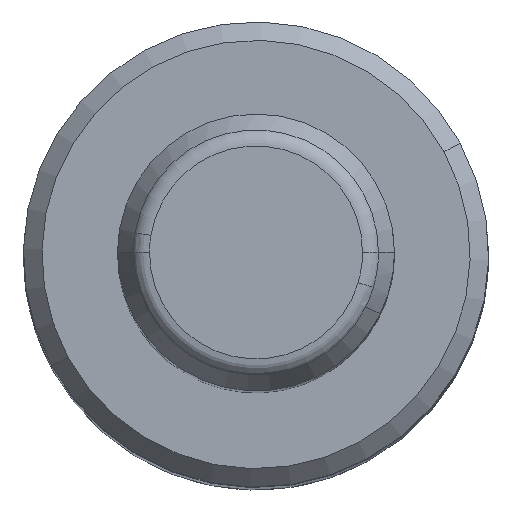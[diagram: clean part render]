
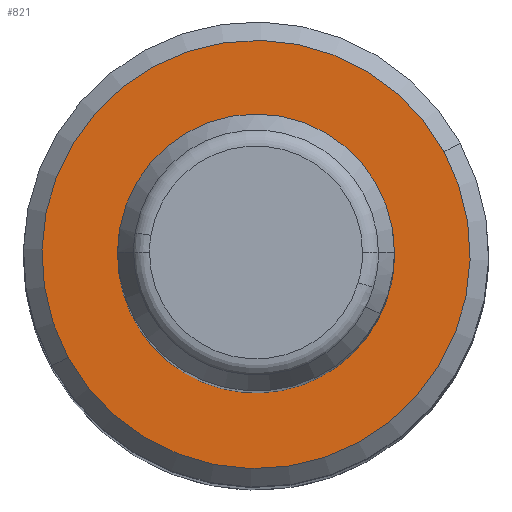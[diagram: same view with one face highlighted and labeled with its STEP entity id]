
A CAD part, top view. The second image highlights one B-rep face of the part: STEP entity #821.
In plain terms, the highlighted planar face has unit normal (0, 0, 1).
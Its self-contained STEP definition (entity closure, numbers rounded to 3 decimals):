
#769=CARTESIAN_POINT('Axis2P3D Location',(0.,0.,92.)) ;
#773=CARTESIAN_POINT('Vertex',(10.18,5.561,92.)) ;
#775=CARTESIAN_POINT('Vertex',(-10.18,-5.561,92.)) ;
#800=CARTESIAN_POINT('Axis2P3D Location',(0.,0.,92.)) ;
#812=CARTESIAN_POINT('Axis2P3D Location',(11.6,0.,92.)) ;
#770=DIRECTION('Axis2P3D Direction',(0.,0.,-1.)) ;
#801=DIRECTION('Axis2P3D Direction',(0.,0.,-1.)) ;
#813=DIRECTION('Axis2P3D Direction',(0.,0.,1.)) ;
#814=DIRECTION('Axis2P3D XDirection',(1.,0.,0.)) ;
#771=AXIS2_PLACEMENT_3D('Circle Axis2P3D',#769,#770,$) ;
#802=AXIS2_PLACEMENT_3D('Circle Axis2P3D',#800,#801,$) ;
#815=AXIS2_PLACEMENT_3D('Plane Axis2P3D',#812,#813,#814) ;
#818=ORIENTED_EDGE('',*,*,#777,.T.) ;
#819=ORIENTED_EDGE('',*,*,#804,.T.) ;
#821=ADVANCED_FACE('',(#820),#816,.T.) ;
#772=CIRCLE('generated circle',#771,11.6) ;
#803=CIRCLE('generated circle',#802,11.6) ;
#777=EDGE_CURVE('',#774,#776,#772,.F.) ;
#804=EDGE_CURVE('',#776,#774,#803,.F.) ;
#817=EDGE_LOOP('',(#818,#819)) ;
#820=FACE_OUTER_BOUND('',#817,.T.) ;
#816=PLANE('Plane',#815) ;
#774=VERTEX_POINT('',#773) ;
#776=VERTEX_POINT('',#775) ;
